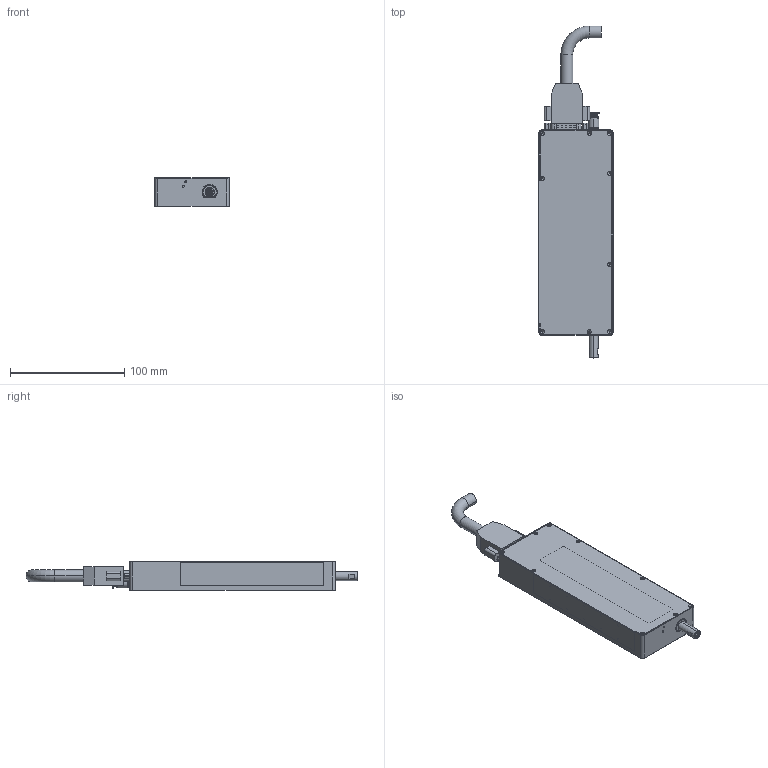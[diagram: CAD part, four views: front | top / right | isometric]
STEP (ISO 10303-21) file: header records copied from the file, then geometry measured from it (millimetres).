
FILE_DESCRIPTION((''),'2;1');
FILE_NAME('ZRAD8-25-S45-EC_ASM','2024-03-21T',('12562'),(''),'PRO/ENGINEER BY PARAMETRIC TECHNOLOGY CORPORATION, 2014320','PRO/ENGINEER BY PARAMETRIC TECHNOLOGY CORPORATION, 2014320','');
FILE_SCHEMA(('AUTOMOTIVE_DESIGN { 1 0 10303 214 1 1 1 1 }'));
Products named in the file (42): ____1; __________2_2_; M2_______1; __________2_1_; __________2_3_; PCB__02_ASM; 8P-0_5____; XF3M_0815_1B; 8P-0_5____02; ZRAD8-25-S45-EC-Z-16_PCB______0; ZRAD8-25-S45-EC-Z-17_____PCB__0_ASM; ZRAD8-25-S45-EC-Z-05-X4________; ZRAD8-25-S45-EC-Z-07-X2________; NONE-65196; NONE-77489; ______5___ASM; ZRAD8-25-S45-EC-Z-08_________01; SRS7N844_5_TRACK; ZRAD8-25-S45-EC-Z-20___________; ZRAD8-25-S45-EC-Z-15_____; PCB____; ZRAD8-25-S45-EC-Z-08_PCB______0_ASM; ZRAD8-25-S45-EC-Z-01-X6________; AWS6-50; M-5HLH-4; SRS7NUU1_SLIDER; ZRAD8-25-S45-EC-Z-03-X5________; _____LSPR-SR_ZRAD8-25-S45-EC-Z-; TAR11_M2_L5; ZRAD8-25-S45-EC-Z-14_PCB_______; PCB03; ZRAD8-25-S45-EC-Z-18_____PCB__0_ASM; ZRAD8-25-S45-EC-Z-04-X3________; GCS3-19____________02; POC4M5; ZRAD8-25-S45-EC-Z-12_PCB_______; ZRAD8-25-S45-EC-Z-19___________; GCS3-19____________01; DB26____; ZRAD8-25-S45-EC-Z-00___Z__-X2_ASM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
Assembly tree (48 placements, depth 5):
  ZRAD8-25-S45-EC_ASM
    ZRAD8-25-S45-EC-Z-00___Z__-X2_ASM
      ZRAD8-25-S45-EC-Z-17_____PCB__0_ASM
        PCB__02_ASM
          ____1
          __________2_2_
          M2_______1
          __________2_1_
          __________2_3_
        8P-0_5____
        XF3M_0815_1B  x2
        8P-0_5____02
        ZRAD8-25-S45-EC-Z-16_PCB______0
      ZRAD8-25-S45-EC-Z-05-X4________
      ZRAD8-25-S45-EC-Z-07-X2________
      ______5___ASM
        NONE-65196
        NONE-77489
      ZRAD8-25-S45-EC-Z-08_________01  x2
      SRS7N844_5_TRACK
      ZRAD8-25-S45-EC-Z-20___________  x2
      ZRAD8-25-S45-EC-Z-15_____
      ZRAD8-25-S45-EC-Z-08_PCB______0_ASM
        XF3M_0815_1B  x2
        PCB____
      ZRAD8-25-S45-EC-Z-01-X6________
      AWS6-50
      M-5HLH-4
      SRS7NUU1_SLIDER
      ZRAD8-25-S45-EC-Z-03-X5________
      _____LSPR-SR_ZRAD8-25-S45-EC-Z-
      ZRAD8-25-S45-EC-Z-18_____PCB__0_ASM
        TAR11_M2_L5  x2
        ZRAD8-25-S45-EC-Z-14_PCB_______
        PCB03
        XF3M_0815_1B
      ZRAD8-25-S45-EC-Z-04-X3________
      GCS3-19____________02
      POC4M5
      ZRAD8-25-S45-EC-Z-12_PCB_______
      ZRAD8-25-S45-EC-Z-19___________
      GCS3-19____________01
      DB26____
    DB26
Bounding box: 65 x 291.05 x 25 mm (x, y, z)
Volume: 192097.7 mm3; surface area: 147349.6 mm2
Topology: 41 solids, 42 shells, 5729 faces, 15419 edges, 9806 vertices
Faces by surface type: plane 3971, cylinder 1184, cone 253, torus 214, sphere 64, bspline 35, extrusion 8
Entity records: 117690 total; most frequent: CARTESIAN_POINT 36437, DIRECTION 17072, ORIENTED_EDGE 16126, EDGE_CURVE 8065, AXIS2_PLACEMENT_3D 6009, VERTEX_POINT 5108, VECTOR 5054, LINE 5046
